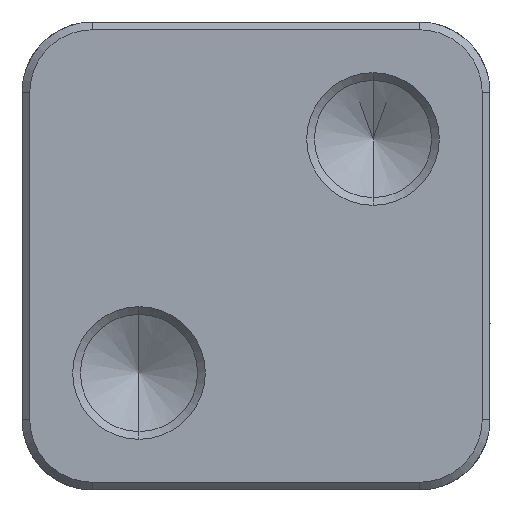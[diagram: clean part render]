
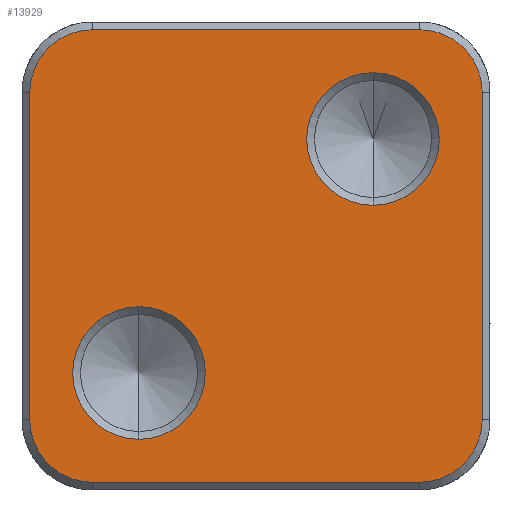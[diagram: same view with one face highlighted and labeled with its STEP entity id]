
A CAD part, front view. The second image highlights one B-rep face of the part: STEP entity #13929.
In plain terms, the highlighted planar face has unit normal (0, -1, 0).
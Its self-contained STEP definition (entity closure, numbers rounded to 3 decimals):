
#274 = VERTEX_POINT ( 'NONE', #7122 ) ;
#323 = VECTOR ( 'NONE', #6308, 1000. ) ;
#710 = DIRECTION ( 'NONE',  ( 0., 0., -1. ) ) ;
#756 = DIRECTION ( 'NONE',  ( 0., -1., 0. ) ) ;
#996 = DIRECTION ( 'NONE',  ( 0., 0., -1. ) ) ;
#1030 = DIRECTION ( 'NONE',  ( 0., 0., -1. ) ) ;
#1463 = CARTESIAN_POINT ( 'NONE',  ( -2.5, 0., -1.086 ) ) ;
#1531 = AXIS2_PLACEMENT_3D ( 'NONE', #13359, #12109, #4931 ) ;
#1691 = EDGE_CURVE ( 'NONE', #10063, #14364, #13993, .T. ) ;
#1753 = CIRCLE ( 'NONE', #12996, 1.333 ) ;
#1815 = CIRCLE ( 'NONE', #1531, 1.333 ) ;
#1953 = EDGE_CURVE ( 'NONE', #8993, #5353, #11993, .T. ) ;
#1970 = EDGE_CURVE ( 'NONE', #3969, #14096, #2508, .T. ) ;
#2071 = CARTESIAN_POINT ( 'NONE',  ( -4.833, 0., 3.498 ) ) ;
#2088 = CARTESIAN_POINT ( 'NONE',  ( -3.5, 0., 3.498 ) ) ;
#2170 = PLANE ( 'NONE',  #10807 ) ;
#2182 = EDGE_CURVE ( 'NONE', #9695, #2904, #1753, .T. ) ;
#2185 = ORIENTED_EDGE ( 'NONE', *, *, #12113, .T. ) ;
#2319 = DIRECTION ( 'NONE',  ( 0., -1., 0. ) ) ;
#2328 = CIRCLE ( 'NONE', #11064, 1.333 ) ;
#2508 = CIRCLE ( 'NONE', #11254, 1.333 ) ;
#2721 = VERTEX_POINT ( 'NONE', #7475 ) ;
#2741 = ORIENTED_EDGE ( 'NONE', *, *, #13731, .T. ) ;
#2904 = VERTEX_POINT ( 'NONE', #13811 ) ;
#3044 = DIRECTION ( 'NONE',  ( 0., 0., 1. ) ) ;
#3134 = ORIENTED_EDGE ( 'NONE', *, *, #7338, .T. ) ;
#3474 = VECTOR ( 'NONE', #1030, 1000. ) ;
#3652 = CARTESIAN_POINT ( 'NONE',  ( 4.833, 0., -3.503 ) ) ;
#3716 = CARTESIAN_POINT ( 'NONE',  ( 2.5, 0., 1.081 ) ) ;
#3928 = EDGE_LOOP ( 'NONE', ( #2185, #9345 ) ) ;
#3931 = CIRCLE ( 'NONE', #13407, 1.417 ) ;
#3963 = CARTESIAN_POINT ( 'NONE',  ( 5., 0., -4.836 ) ) ;
#3969 = VERTEX_POINT ( 'NONE', #8818 ) ;
#3989 = LINE ( 'NONE', #10087, #7936 ) ;
#4036 = LINE ( 'NONE', #3963, #323 ) ;
#4530 = AXIS2_PLACEMENT_3D ( 'NONE', #14895, #5687, #7793 ) ;
#4671 = DIRECTION ( 'NONE',  ( 0., 0., -1. ) ) ;
#4931 = DIRECTION ( 'NONE',  ( 0., 0., 1. ) ) ;
#5353 = VERTEX_POINT ( 'NONE', #3716 ) ;
#5569 = CIRCLE ( 'NONE', #12533, 1.417 ) ;
#5687 = DIRECTION ( 'NONE',  ( 0., 1., 0. ) ) ;
#5827 = CIRCLE ( 'NONE', #6309, 1.417 ) ;
#6022 = LINE ( 'NONE', #10790, #3474 ) ;
#6228 = DIRECTION ( 'NONE',  ( 0., -1., 0. ) ) ;
#6282 = EDGE_CURVE ( 'NONE', #14096, #9695, #6022, .T. ) ;
#6308 = DIRECTION ( 'NONE',  ( 1., 0., 0. ) ) ;
#6309 = AXIS2_PLACEMENT_3D ( 'NONE', #12633, #13814, #996 ) ;
#6315 = ORIENTED_EDGE ( 'NONE', *, *, #7422, .T. ) ;
#6380 = ORIENTED_EDGE ( 'NONE', *, *, #13839, .T. ) ;
#6462 = DIRECTION ( 'NONE',  ( 0., 0., 1. ) ) ;
#6507 = VECTOR ( 'NONE', #3044, 1000. ) ;
#6653 = VERTEX_POINT ( 'NONE', #14373 ) ;
#6928 = DIRECTION ( 'NONE',  ( 0., 1., 0. ) ) ;
#7122 = CARTESIAN_POINT ( 'NONE',  ( -2.5, 0., -3.92 ) ) ;
#7338 = EDGE_CURVE ( 'NONE', #2721, #3969, #3989, .T. ) ;
#7422 = EDGE_CURVE ( 'NONE', #274, #10863, #3931, .T. ) ;
#7475 = CARTESIAN_POINT ( 'NONE',  ( 3.5, 0., 4.831 ) ) ;
#7793 = DIRECTION ( 'NONE',  ( 0., 0., -1. ) ) ;
#7936 = VECTOR ( 'NONE', #8756, 1000. ) ;
#8130 = CARTESIAN_POINT ( 'NONE',  ( 4.833, 0., -5.003 ) ) ;
#8179 = ORIENTED_EDGE ( 'NONE', *, *, #6282, .T. ) ;
#8445 = CARTESIAN_POINT ( 'NONE',  ( 2.5, 0., 3.914 ) ) ;
#8754 = CARTESIAN_POINT ( 'NONE',  ( -4.833, 0., -3.503 ) ) ;
#8756 = DIRECTION ( 'NONE',  ( -1., 0., 0. ) ) ;
#8818 = CARTESIAN_POINT ( 'NONE',  ( -3.5, 0., 4.831 ) ) ;
#8867 = CARTESIAN_POINT ( 'NONE',  ( -3.5, 0., -3.503 ) ) ;
#8941 = DIRECTION ( 'NONE',  ( 0., -1., 0. ) ) ;
#8993 = VERTEX_POINT ( 'NONE', #8445 ) ;
#9345 = ORIENTED_EDGE ( 'NONE', *, *, #1953, .T. ) ;
#9695 = VERTEX_POINT ( 'NONE', #8754 ) ;
#9789 = ORIENTED_EDGE ( 'NONE', *, *, #1970, .T. ) ;
#10063 = VERTEX_POINT ( 'NONE', #3652 ) ;
#10087 = CARTESIAN_POINT ( 'NONE',  ( 5., 0., 4.831 ) ) ;
#10295 = FACE_OUTER_BOUND ( 'NONE', #14572, .T. ) ;
#10790 = CARTESIAN_POINT ( 'NONE',  ( -4.833, 0., -5.003 ) ) ;
#10807 = AXIS2_PLACEMENT_3D ( 'NONE', #13097, #2319, #4671 ) ;
#10863 = VERTEX_POINT ( 'NONE', #1463 ) ;
#11064 = AXIS2_PLACEMENT_3D ( 'NONE', #14733, #6228, #6462 ) ;
#11254 = AXIS2_PLACEMENT_3D ( 'NONE', #2088, #756, #12788 ) ;
#11368 = DIRECTION ( 'NONE',  ( 0., 0., 1. ) ) ;
#11549 = FACE_BOUND ( 'NONE', #3928, .T. ) ;
#11562 = ORIENTED_EDGE ( 'NONE', *, *, #14605, .T. ) ;
#11993 = CIRCLE ( 'NONE', #4530, 1.417 ) ;
#12109 = DIRECTION ( 'NONE',  ( 0., -1., 0. ) ) ;
#12113 = EDGE_CURVE ( 'NONE', #5353, #8993, #5569, .T. ) ;
#12533 = AXIS2_PLACEMENT_3D ( 'NONE', #13011, #6928, #12939 ) ;
#12633 = CARTESIAN_POINT ( 'NONE',  ( -2.5, 0., -2.503 ) ) ;
#12788 = DIRECTION ( 'NONE',  ( 0., 0., 1. ) ) ;
#12939 = DIRECTION ( 'NONE',  ( 0., 0., -1. ) ) ;
#12996 = AXIS2_PLACEMENT_3D ( 'NONE', #8867, #8941, #11368 ) ;
#13011 = CARTESIAN_POINT ( 'NONE',  ( 2.5, 0., 2.498 ) ) ;
#13097 = CARTESIAN_POINT ( 'NONE',  ( 5., 0., -5.003 ) ) ;
#13108 = EDGE_LOOP ( 'NONE', ( #6315, #14346 ) ) ;
#13359 = CARTESIAN_POINT ( 'NONE',  ( 3.5, 0., 3.498 ) ) ;
#13407 = AXIS2_PLACEMENT_3D ( 'NONE', #15002, #13920, #710 ) ;
#13467 = ORIENTED_EDGE ( 'NONE', *, *, #2182, .T. ) ;
#13731 = EDGE_CURVE ( 'NONE', #6653, #10063, #2328, .T. ) ;
#13811 = CARTESIAN_POINT ( 'NONE',  ( -3.5, 0., -4.836 ) ) ;
#13814 = DIRECTION ( 'NONE',  ( 0., 1., 0. ) ) ;
#13839 = EDGE_CURVE ( 'NONE', #2904, #6653, #4036, .T. ) ;
#13920 = DIRECTION ( 'NONE',  ( 0., 1., 0. ) ) ;
#13929 = ADVANCED_FACE ( 'NONE', ( #10295, #15055, #11549 ), #2170, .T. ) ;
#13971 = ORIENTED_EDGE ( 'NONE', *, *, #1691, .T. ) ;
#13993 = LINE ( 'NONE', #8130, #6507 ) ;
#14096 = VERTEX_POINT ( 'NONE', #2071 ) ;
#14346 = ORIENTED_EDGE ( 'NONE', *, *, #14734, .T. ) ;
#14364 = VERTEX_POINT ( 'NONE', #14859 ) ;
#14373 = CARTESIAN_POINT ( 'NONE',  ( 3.5, 0., -4.836 ) ) ;
#14572 = EDGE_LOOP ( 'NONE', ( #9789, #8179, #13467, #6380, #2741, #13971, #11562, #3134 ) ) ;
#14605 = EDGE_CURVE ( 'NONE', #14364, #2721, #1815, .T. ) ;
#14733 = CARTESIAN_POINT ( 'NONE',  ( 3.5, 0., -3.503 ) ) ;
#14734 = EDGE_CURVE ( 'NONE', #10863, #274, #5827, .T. ) ;
#14859 = CARTESIAN_POINT ( 'NONE',  ( 4.833, 0., 3.498 ) ) ;
#14895 = CARTESIAN_POINT ( 'NONE',  ( 2.5, 0., 2.498 ) ) ;
#15002 = CARTESIAN_POINT ( 'NONE',  ( -2.5, 0., -2.503 ) ) ;
#15055 = FACE_BOUND ( 'NONE', #13108, .T. ) ;
